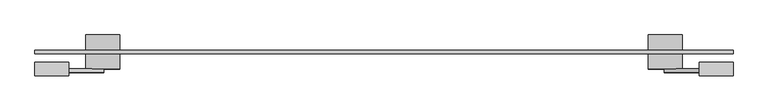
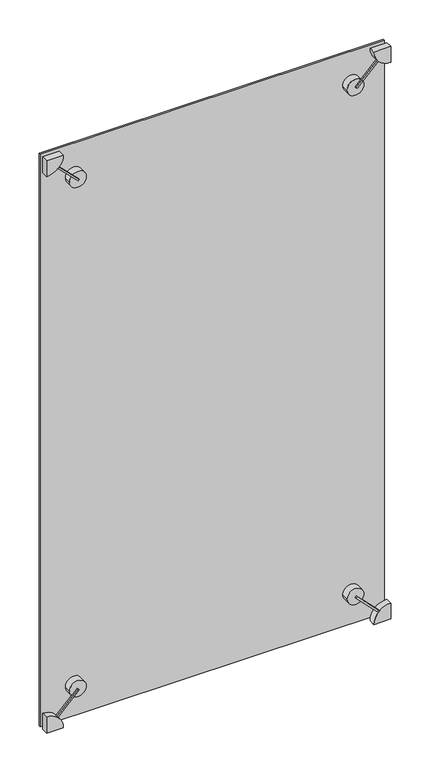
"""IFC4 building model written with IfcOpenShell, lengths in millimetres: plate geometry, 点爪式幕墙嵌板 : 点爪式幕墙嵌板."""

from ifc_helpers import new_model, si_unit, point, frame, frame_2d, origin, origin_with_axes, place, context, project, spatial, polyline, circle_curve, trimmed, segment, composite_curve, outline, extrude, source, transform, mapped, element, save
from ifc_brep_helpers import plane_surface, cylinder_surface, advanced_brep


def plate_4372ea3f(model_context):
    return source(origin(), model_context, "Body", "SolidModel", [
        extrude(outline(polyline([(0.0, -10.0), (0.0, 0.0), (10.0, 0.0), (10.0, -10.0), (0.0, -10.0)])), frame((-958.7667022, -60.0, 73.3043656), z_axis=(0.7071067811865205, 0.0, 0.7071067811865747), x_axis=(0.0, 1.0, 0.0)), (0.0, 0.0, 1.0), 181.331972),
        extrude(outline(composite_curve([segment(trimmed(circle_curve(frame_2d((0.0, -1025.0)), 100.0), [point((0.0, -925.0))], [point((100.0, -1025.0))], False, "CARTESIAN"), True, "CONTINUOUS"), segment(polyline([(100.0, -1025.0), (0.0, -1025.0), (0.0, -925.0)]), True, "CONTINUOUS")], self_intersect=False)), frame((0.0, -70.0, 0.0), z_axis=(0.0, 1.0, 0.0), x_axis=(0.0, 0.0, 1.0)), (0.0, 0.0, 1.0), 40.0),
        extrude(outline(composite_curve([segment(trimmed(circle_curve(frame_2d((199.0051024, -825.9948976)), 50.0), [point((199.0051024, -775.9948976))], [point((199.0051024, -875.9948976))], False, "CARTESIAN"), True, "CONTINUOUS"), segment(trimmed(circle_curve(frame_2d((199.0051024, -825.9948976)), 50.0), [point((199.0051024, -875.9948976))], [point((199.0051024, -775.9948976))], False, "CARTESIAN"), True, "CONTINUOUS")], self_intersect=False)), frame((0.0, -50.0, 0.0), z_axis=(0.0, 1.0, 0.0), x_axis=(0.0, 0.0, 1.0)), (0.0, 0.0, 1.0), 100.0),
        extrude(outline(polyline([(0.0, -181.3319719), (0.0, 0.0), (10.0, 0.0), (10.0, -181.3319719), (0.0, -181.3319719)])), frame((823.4745674, -60.0, 194.4543648), z_axis=(0.7071067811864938, 0.0, 0.7071067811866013), x_axis=(0.0, 1.0, 0.0)), (0.0, 0.0, 1.0), 10.0),
        extrude(outline(composite_curve([segment(polyline([(0.0, 925.0), (0.0, 1025.0), (100.0, 1025.0)]), True, "CONTINUOUS"), segment(trimmed(circle_curve(frame_2d((0.0, 1025.0)), 100.0), [point((100.0, 1025.0))], [point((0.0, 925.0))], False, "CARTESIAN"), True, "CONTINUOUS")], self_intersect=False)), frame((0.0, -70.0, 0.0), z_axis=(0.0, 1.0, 0.0), x_axis=(0.0, 0.0, 1.0)), (0.0, 0.0, 1.0), 40.0),
        extrude(outline(composite_curve([segment(trimmed(circle_curve(frame_2d((199.0051024, 825.9948976)), 50.0), [point((199.0051024, 775.9948976))], [point((199.0051024, 875.9948976))], False, "CARTESIAN"), True, "CONTINUOUS"), segment(trimmed(circle_curve(frame_2d((199.0051024, 825.9948976)), 50.0), [point((199.0051024, 875.9948976))], [point((199.0051024, 775.9948976))], False, "CARTESIAN"), True, "CONTINUOUS")], self_intersect=False)), frame((0.0, -50.0, 0.0), z_axis=(0.0, 1.0, 0.0), x_axis=(0.0, 0.0, 1.0)), (0.0, 0.0, 1.0), 100.0),
        extrude(outline(polyline([(0.0, -181.3319719), (0.0, 0.0), (10.0, 0.0), (10.0, -181.3319719), (0.0, -181.3319719)])), frame((-958.7667022, -60.0, 3526.6956344), z_axis=(0.7071067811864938, 0.0, 0.7071067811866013), x_axis=(0.0, 1.0, 0.0)), (0.0, 0.0, 1.0), 10.0),
        extrude(outline(composite_curve([segment(polyline([(3600.0, -925.0), (3600.0, -1025.0), (3500.0, -1025.0)]), True, "CONTINUOUS"), segment(trimmed(circle_curve(frame_2d((3600.0, -1025.0)), 100.0), [point((3500.0, -1025.0))], [point((3600.0, -925.0))], False, "CARTESIAN"), True, "CONTINUOUS")], self_intersect=False)), frame((0.0, -70.0, 0.0), z_axis=(0.0, 1.0, 0.0), x_axis=(0.0, 0.0, 1.0)), (0.0, 0.0, 1.0), 40.0),
        extrude(outline(composite_curve([segment(trimmed(circle_curve(frame_2d((3400.9948976, -825.9948976)), 50.0), [point((3400.9948976, -775.9948976))], [point((3400.9948976, -875.9948976))], False, "CARTESIAN"), True, "CONTINUOUS"), segment(trimmed(circle_curve(frame_2d((3400.9948976, -825.9948976)), 50.0), [point((3400.9948976, -875.9948976))], [point((3400.9948976, -775.9948976))], False, "CARTESIAN"), True, "CONTINUOUS")], self_intersect=False)), frame((0.0, -50.0, 0.0), z_axis=(0.0, 1.0, 0.0), x_axis=(0.0, 0.0, 1.0)), (0.0, 0.0, 1.0), 100.0),
        advanced_brep(
        [(775.9948976, -50.0, 3400.9948976), (875.9948976, -50.0, 3400.9948976), (864.7085497, -50.0, 3432.6374819), (830.5456352, -50.0, 3398.4745674), (823.4745674, -50.0, 3405.5456352), (857.6374819, -50.0, 3439.7085497), (775.9948976, 50.0, 3400.9948976), (875.9948976, 50.0, 3400.9948976), (823.4745674, -60.0, 3405.5456352), (830.5456352, -60.0, 3398.4745674), (957.9132994, -60.0, 3525.8422316), (950.8422316, -60.0, 3532.9132994), (950.8422316, -50.0, 3532.9132994), (957.9132994, -50.0, 3525.8422316), (925.0, -70.0, 3600.0), (1025.0, -70.0, 3500.0), (1025.0, -70.0, 3600.0), (925.0, -30.0, 3600.0), (1025.0, -30.0, 3600.0), (1025.0, -30.0, 3500.0)],
        [
            (0, 1, circle_curve(frame((825.9948976, -50.0, 3400.9948976), z_axis=(0.0, -1.0, 0.0), x_axis=(1.0, 0.0, 0.0)), 50.0)),
            (1, 2, circle_curve(frame((825.9948976, -50.0, 3400.9948976), z_axis=(0.0, -1.0, 0.0), x_axis=(1.0, 0.0, 0.0)), 50.0)),
            (2, 3),
            (3, 4),
            (4, 5),
            (5, 0, circle_curve(frame((825.9948976, -50.0, 3400.9948976), z_axis=(0.0, -1.0, 0.0), x_axis=(1.0, 0.0, 0.0)), 50.0)),
            (6, 7, circle_curve(frame((825.9948976, 50.0, 3400.9948976), z_axis=(0.0, 1.0, 0.0), x_axis=(1.0, 0.0, 0.0)), 50.0)),
            (7, 6, circle_curve(frame((825.9948976, 50.0, 3400.9948976), z_axis=(0.0, 1.0, 0.0), x_axis=(1.0, 0.0, 0.0)), 50.0)),
            (0, 6),
            (7, 1),
            (5, 2, circle_curve(frame((825.9948976, -50.0, 3400.9948976), z_axis=(0.0, 1.0, 0.0), x_axis=(1.0, 0.0, 0.0)), 50.0)),
            (8, 9),
            (9, 10),
            (10, 11, circle_curve(frame((1025.0, -60.0, 3600.0), z_axis=(0.0, 1.0, 0.0), x_axis=(1.0, 0.0, 0.0)), 100.0)),
            (11, 8),
            (5, 12),
            (12, 13, circle_curve(frame((1025.0, -50.0, 3600.0), z_axis=(0.0, -1.0, 0.0), x_axis=(1.0, 0.0, 0.0)), 100.0)),
            (13, 2),
            (4, 8),
            (11, 12),
            (3, 9),
            (13, 10),
            (14, 15, circle_curve(frame((1025.0, -70.0, 3600.0), z_axis=(0.0, -1.0, 0.0), x_axis=(1.0, 0.0, 0.0)), 100.0)),
            (15, 16),
            (16, 14),
            (17, 18),
            (18, 19),
            (19, 17, circle_curve(frame((1025.0, -30.0, 3600.0), z_axis=(0.0, 1.0, 0.0), x_axis=(1.0, 0.0, 0.0)), 100.0)),
            (14, 17),
            (19, 15),
            (18, 16),
        ],
        [
            plane_surface(frame((875.9948976, -50.0, 3400.9948976), z_axis=(0.0, -1.0, 0.0), x_axis=(0.0, 0.0, 1.0))),
            plane_surface(frame((875.9948976, 50.0, 3400.9948976), z_axis=(0.0, 1.0, 0.0), x_axis=(0.0, 0.0, -1.0))),
            cylinder_surface(frame((825.9948976, 50.0, 3400.9948976), z_axis=(0.0, -1.0, 0.0), x_axis=(1.0, 0.0, 0.0)), 50.0),
            plane_surface(frame((823.4745674, -60.0, 3405.5456352), z_axis=(0.0, -1.0000000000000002, 0.0), x_axis=(-0.7071067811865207, 0.0, -0.7071067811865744))),
            plane_surface(frame((823.4745674, -50.0, 3405.5456352), z_axis=(0.0, 1.0000000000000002, 0.0), x_axis=(0.7071067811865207, 0.0, 0.7071067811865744))),
            plane_surface(frame((951.6956344, -60.0, 3533.7667022), z_axis=(-0.7071067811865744, 0.0, 0.7071067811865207), x_axis=(0.0, 1.0, 0.0))),
            plane_surface(frame((823.4745674, -60.0, 3405.5456352), z_axis=(-0.7071067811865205, 0.0, -0.7071067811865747), x_axis=(0.0, 1.0, 0.0))),
            plane_surface(frame((830.5456352, -60.0, 3398.4745674), z_axis=(0.7071067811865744, 0.0, -0.7071067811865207), x_axis=(0.0, 1.0, 0.0))),
            plane_surface(frame((1125.0, -70.0, 3600.0), z_axis=(0.0, -1.0, 0.0), x_axis=(0.0, 0.0, 1.0))),
            plane_surface(frame((1125.0, -30.0, 3600.0), z_axis=(0.0, 1.0, 0.0), x_axis=(0.0, 0.0, -1.0))),
            cylinder_surface(frame((1025.0, -30.0, 3600.0), z_axis=(0.0, -1.0, 0.0), x_axis=(1.0, 0.0, 0.0)), 100.0),
            plane_surface(frame((1025.0, -70.0, 3500.0), z_axis=(1.0, 0.0, 0.0), x_axis=(0.0, 1.0, 0.0))),
            plane_surface(frame((1025.0, -70.0, 3600.0), z_axis=(0.0, 0.0, 1.0), x_axis=(0.0, 1.0, 0.0))),
        ],
        [
            (0, [[1, 2, 3, 4, 5, 6]]),
            (1, [[7, 8]]),
            (2, [[-1, 9, -8, 10]]),
            (2, [[-7, -9, -6, 11, -2, -10]]),
            (3, [[12, 13, 14, 15]]),
            (4, [[-11, 16, 17, 18]]),
            (5, [[19, -15, 20, -16, -5]]),
            (6, [[-12, -19, -4, 21]]),
            (7, [[-21, -3, -18, 22, -13]]),
            (8, [[23, 24, 25]]),
            (9, [[26, 27, 28]]),
            (10, [[-23, 29, -28, 30], [-14, -22, -17, -20]]),
            (11, [[-24, -30, -27, 31]]),
            (12, [[-25, -31, -26, -29]]),
        ],
    ),
        extrude(outline(polyline([(1025.0, 5.0), (1025.0, -5.0), (-1025.0, -5.0), (-1025.0, 5.0), (1025.0, 5.0)])), origin_with_axes(), (0.0, 0.0, 1.0), 3600.0),
    ])


if __name__ == "__main__":
    model = new_model("IFC4")
    model_context = context("Model", 3, world=origin())
    ifc_project = project(units=[si_unit("LENGTHUNIT", "METRE", prefix="MILLI")], contexts=[model_context])
    site = spatial("IfcSite", under=ifc_project)
    building = spatial("IfcBuilding", under=site)
    placement = place(None, origin())
    plate_shape = plate_4372ea3f(model_context)
    element("IfcPlate", 1, ObjectType="点爪式幕墙嵌板 : 点爪式幕墙嵌板", at=placement, inside=building, context=model_context, shape_type="MappedRepresentation", body=[
        mapped(plate_shape, transform((0.0, 0.0, 0.0), x_axis=(1.0, 0.0, 0.0), y_axis=(0.0, 1.0, 0.0), z_axis=(0.0, 0.0, 1.0))),
    ])
    save(model, "model.ifc")
